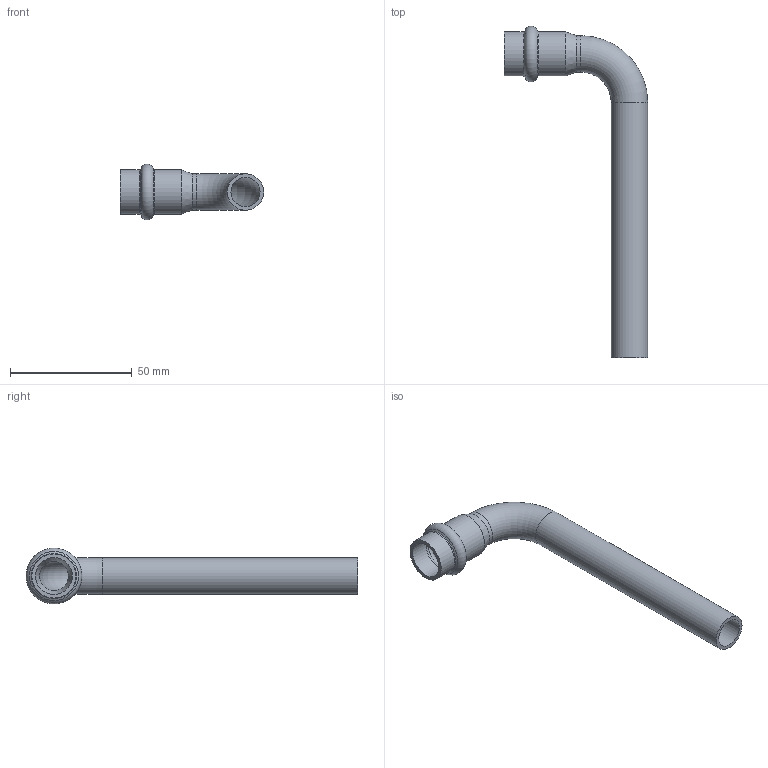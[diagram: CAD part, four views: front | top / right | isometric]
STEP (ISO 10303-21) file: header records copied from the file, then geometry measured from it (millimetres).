
FILE_DESCRIPTION((''),'2;1');
FILE_NAME('G:\Nirosan-Schmiedefeld\Technics\CAD\Bauteile VA\015\69001L15(1).stp','2011-10-26T11:05:33',('herberg'),(''),'Autodesk Inventor 2009','Autodesk Inventor 2009','');
FILE_SCHEMA(('AUTOMOTIVE_DESIGN { 1 0 10303 214 1 1 1 1 }'));
Length unit declared in the file: millimetre
Products named in the file (1): 69001L15(1)
Bounding box: 59 x 136.44 x 22.89 mm (x, y, z)
Volume: 11374.2 mm3; surface area: 15307.6 mm2
Topology: 1 solids, 1 shells, 22 faces, 48 edges, 28 vertices
Faces by surface type: cylinder 8, cone 4, torus 4, bspline 4, plane 2
Full cylindrical faces by diameter (mm): 12 x2, 15 x2, 15.15 x2, 18.15 x2
Entity records: 634 total; most frequent: CARTESIAN_POINT 243, DIRECTION 82, ORIENTED_EDGE 44, EDGE_LOOP 44, AXIS2_PLACEMENT_3D 41, VERTEX_POINT 22, CIRCLE 22, EDGE_CURVE 22
